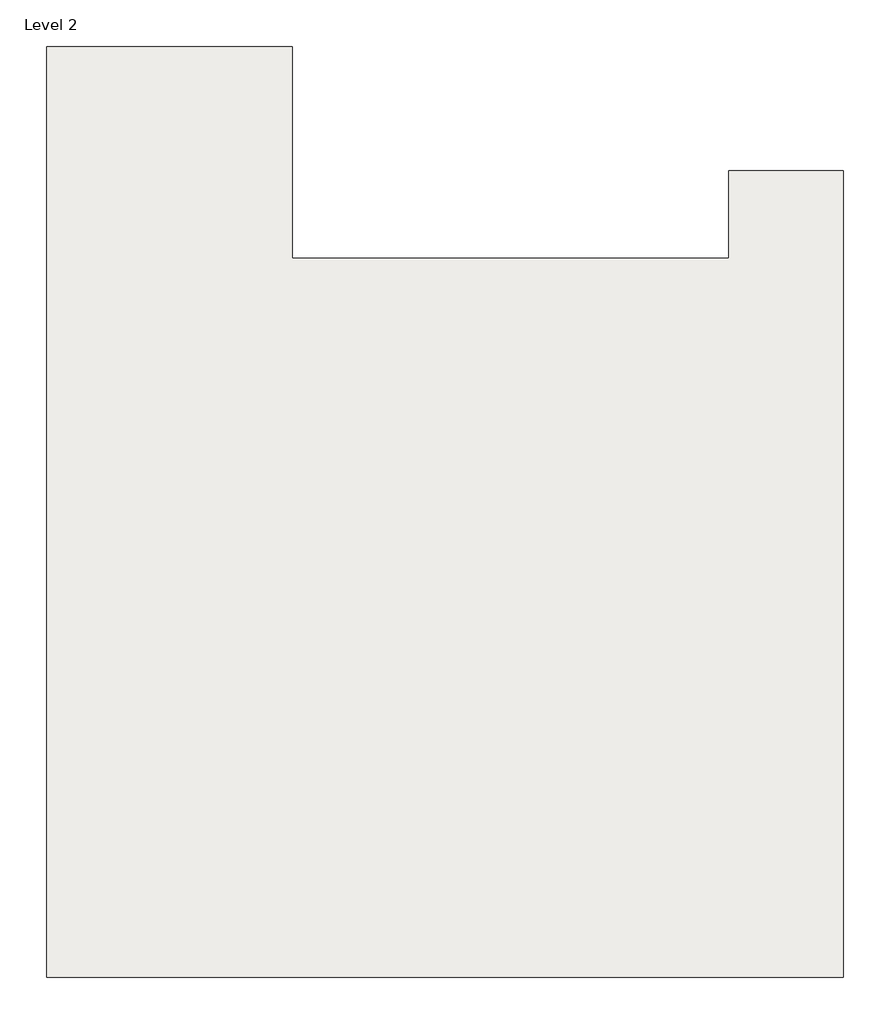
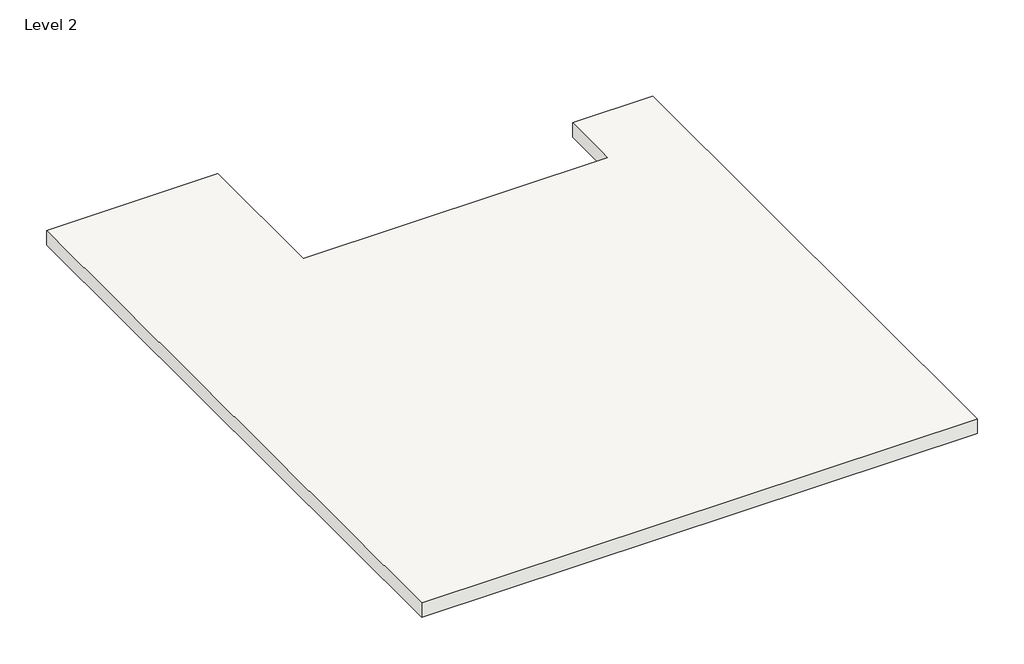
# One storey: 1 slab.
"""IFC4 building model written with IfcOpenShell, lengths in millimetres."""

from ifc_helpers import new_model, si_unit, frame, origin, place, context, project, spatial, polyline, outline, extrude, element, save

model = new_model("IFC4")

# Units and contexts
model_context = context("Model", 3, world=origin())
ifc_project = project(units=[si_unit("LENGTHUNIT", "METRE", prefix="MILLI")], contexts=[model_context])

# Site, building, storey
site = spatial("IfcSite", under=ifc_project)
building = spatial("IfcBuilding", under=site)
storey = spatial("IfcBuildingStorey", under=building, Name="Level 2", Elevation=3600.0)

# Slab
placement = place(None, origin())
element("IfcSlab", 1, ObjectType="Concrete Slab - 6\"", at=placement, inside=storey, context=model_context, shape_type="SweptSolid", body=[
    extrude(outline(polyline([(15935.1576528, 13390.3600826), (15935.1576528, 9510.3600826), (23935.1576528, 9510.3600826), (23935.1576528, 11110.3600826), (26035.1576528, 11110.3600826), (26035.1576528, -3669.6399174), (11435.1576528, -3669.6399174), (11435.1576528, 13390.3600826), (15935.1576528, 13390.3600826)])), frame((0.0, 0.0, 3200.0), z_axis=(0.0, 0.0, 1.0), x_axis=(1.0, 0.0, 0.0)), (0.0, 0.0, 1.0), 400.0),
])

save(model, "model.ifc")
